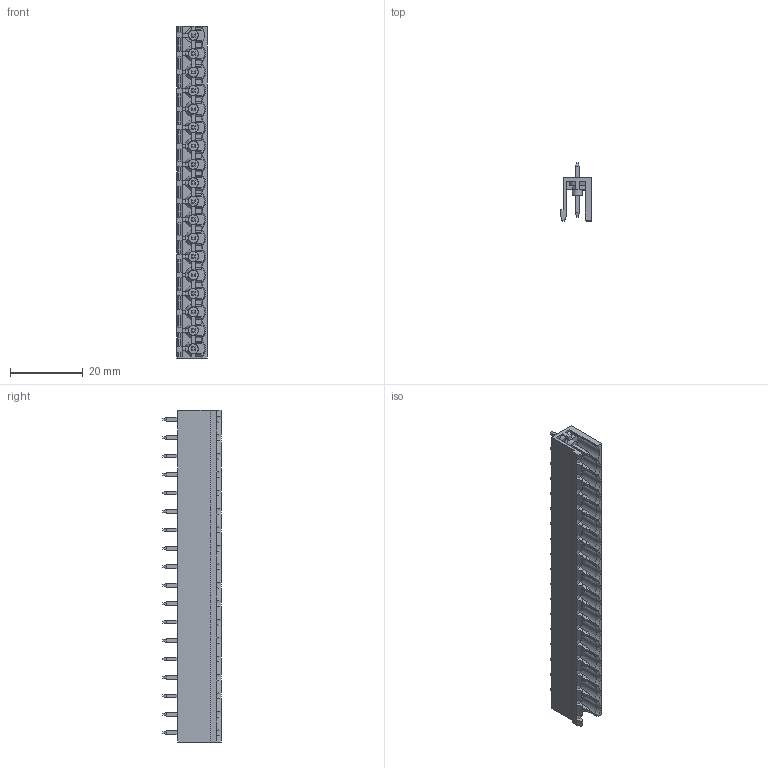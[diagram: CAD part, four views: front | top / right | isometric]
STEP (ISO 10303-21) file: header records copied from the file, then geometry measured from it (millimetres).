
FILE_DESCRIPTION (( 'STEP AP203' ), '1' );
FILE_NAME ('BR8MC1-18.STEP', '2020-03-18T03:06:13', ( '' ), ( '' ), 'SwSTEP 2.0', 'SolidWorks 2019', '' );
FILE_SCHEMA (( 'CONFIG_CONTROL_DESIGN' ));
Length unit declared in the file: millimetre
Products named in the file (1): BR8MC1-18
Bounding box: 8.5 x 16.03 x 91.44 mm (x, y, z)
Volume: 3462.9 mm3; surface area: 7661.4 mm2
Topology: 1 solids, 1 shells, 1513 faces, 3942 edges, 2431 vertices
Faces by surface type: plane 1299, cylinder 91, cone 87, sphere 36
Entity records: 44948 total; most frequent: CARTESIAN_POINT 8590, ORIENTED_EDGE 7740, DIRECTION 7085, EDGE_CURVE 3870, LINE 3301, VECTOR 3301, VERTEX_POINT 2395, AXIS2_PLACEMENT_3D 1892
